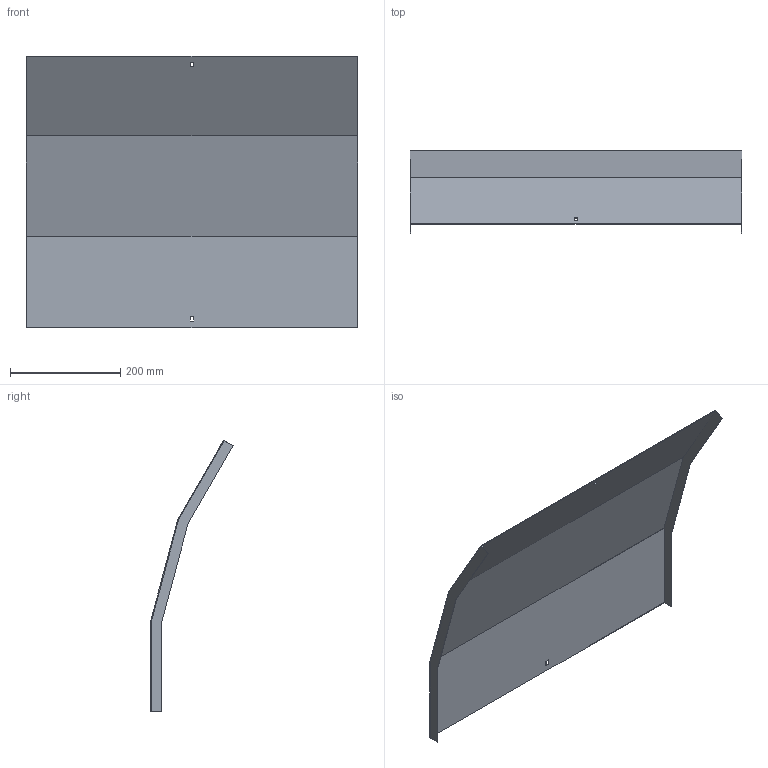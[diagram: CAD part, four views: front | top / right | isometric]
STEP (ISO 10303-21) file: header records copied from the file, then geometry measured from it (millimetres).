
FILE_DESCRIPTION (( 'STEP AP214' ), '1' );
FILE_NAME ('A2_35N3J600.step', '2025-02-21T10:31:27', ( '' ), ( '' ), 'SwSTEP 2.0', 'SolidWorks 2023', '' );
FILE_SCHEMA (( 'AUTOMOTIVE_DESIGN' ));
Length unit declared in the file: millimetre
Products named in the file (1): A2_35N3J600
Bounding box: 603 x 149.62 x 493.76 mm (x, y, z)
Volume: 500784 mm3; surface area: 671262.2 mm2
Topology: 1 solids, 1 shells, 26 faces, 72 edges, 48 vertices
Faces by surface type: plane 26
Entity records: 847 total; most frequent: CARTESIAN_POINT 147, ORIENTED_EDGE 144, DIRECTION 126, LINE 72, VECTOR 72, EDGE_CURVE 72, VERTEX_POINT 48, EDGE_LOOP 30
